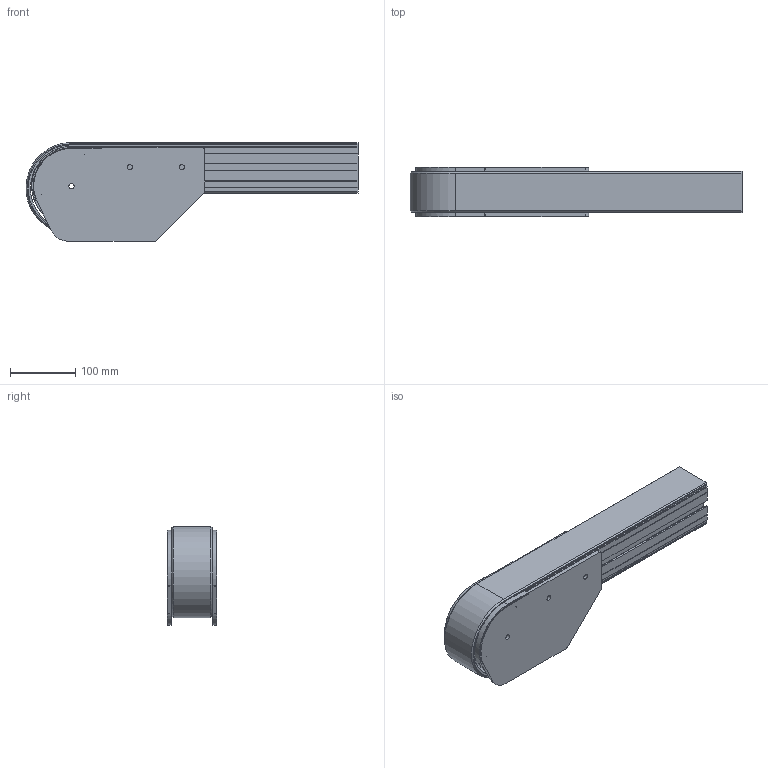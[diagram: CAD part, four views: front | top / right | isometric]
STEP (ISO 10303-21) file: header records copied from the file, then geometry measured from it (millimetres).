
FILE_DESCRIPTION(/* description */ ('IDLER UNIT SERIE 620'),/* implementation_level */ '2;1');
FILE_NAME(/* name */ '\\carryline.intra\privat\users\mathias\Desktop\Tillfälliga filer\620-4005.stp',/* time_stamp */ '2018-12-05T13:33:57+01:00',/* author */ ('ML'),/* organization */ (''),/* preprocessor_version */ 'ST-DEVELOPER v17',/* originating_system */ 'Autodesk Inventor 2018',/* authorisation */ '');
FILE_SCHEMA (('AUTOMOTIVE_DESIGN { 1 0 10303 214 3 1 1 }'));
Length unit declared in the file: millimetre
Products named in the file (7): 620-4005; Serie 620 Vändände; 620-1000+620-2000-01; 900-3055H; 900-3055V; 900-2121H; 900-2121V
Assembly tree (6 placements, depth 3):
  620-4005
    Serie 620 Vändände
      620-1000+620-2000-01
      900-3055H
      900-3055V
    900-2121H
    900-2121V
Bounding box: 509.91 x 76 x 152 mm (x, y, z)
Volume: 2442668.9 mm3; surface area: 391610.9 mm2
Topology: 5 solids, 5 shells, 291 faces, 743 edges, 460 vertices
Faces by surface type: plane 112, cylinder 101, torus 36, sphere 18, cone 12, bspline 12
Full cylindrical faces by diameter (mm): 4 x4, 5.3 x4, 8 x6, 45 x2
Entity records: 9591 total; most frequent: CARTESIAN_POINT 1967, DIRECTION 1597, ORIENTED_EDGE 1478, EDGE_CURVE 739, AXIS2_PLACEMENT_3D 594, VERTEX_POINT 460, LINE 409, VECTOR 409
